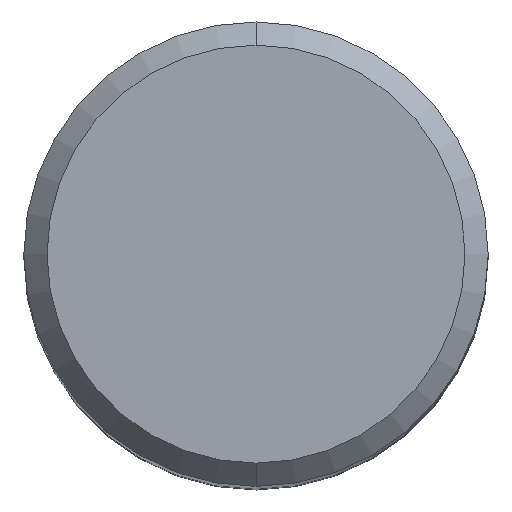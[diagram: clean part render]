
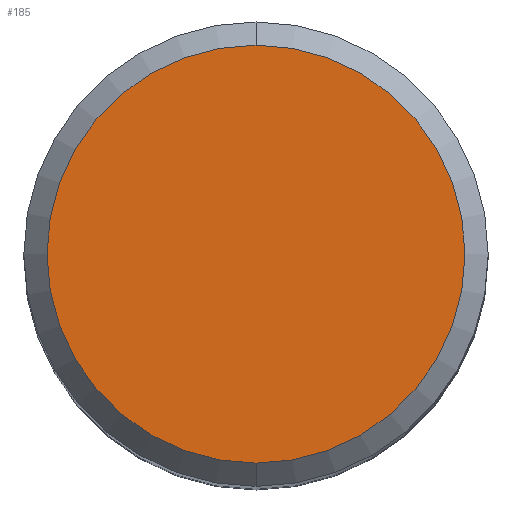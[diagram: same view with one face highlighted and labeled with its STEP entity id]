
A CAD part, top view. The second image highlights one B-rep face of the part: STEP entity #185.
In plain terms, the highlighted planar face has unit normal (0, 0, 1).
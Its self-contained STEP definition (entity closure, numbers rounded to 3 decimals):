
#185=ADVANCED_FACE('',(#478),#479,.T.);
#221=VERTEX_POINT('',#519);
#227=VERTEX_POINT('',#526);
#321=EDGE_CURVE('',#221,#227,#629,.T.);
#431=EDGE_CURVE('',#227,#221,#750,.T.);
#478=FACE_OUTER_BOUND('',#840,.T.);
#479=PLANE('',#841);
#519=CARTESIAN_POINT('',(0.,-9.0,0.0));
#526=CARTESIAN_POINT('',(0.0,9.0,0.0));
#629=CIRCLE('',#1217,9.0);
#750=CIRCLE('',#1527,9.0);
#840=EDGE_LOOP('',(#1570,#1571));
#841=AXIS2_PLACEMENT_3D('',#1572,#1573,#1574);
#1217=AXIS2_PLACEMENT_3D('',#1733,#1734,#1735);
#1527=AXIS2_PLACEMENT_3D('',#1868,#1869,#1870);
#1570=ORIENTED_EDGE('',*,*,#431,.F.);
#1571=ORIENTED_EDGE('',*,*,#321,.F.);
#1572=CARTESIAN_POINT('',(0.0,4.5,0.0));
#1573=DIRECTION('',(-0.0,0.0,1.0));
#1574=DIRECTION('',(0.0,-1.0,0.0));
#1733=CARTESIAN_POINT('',(0.0,0.0,0.0));
#1734=DIRECTION('',(0.0,0.0,-1.0));
#1735=DIRECTION('',(0.0,1.0,0.0));
#1868=CARTESIAN_POINT('',(0.0,0.0,0.0));
#1869=DIRECTION('',(0.0,0.0,-1.0));
#1870=DIRECTION('',(0.0,1.0,0.0));
